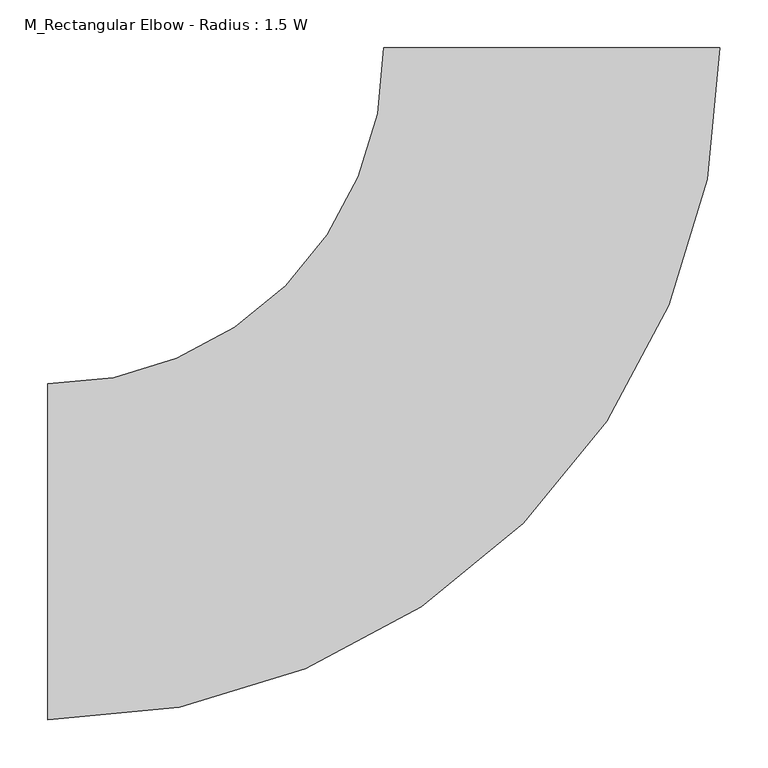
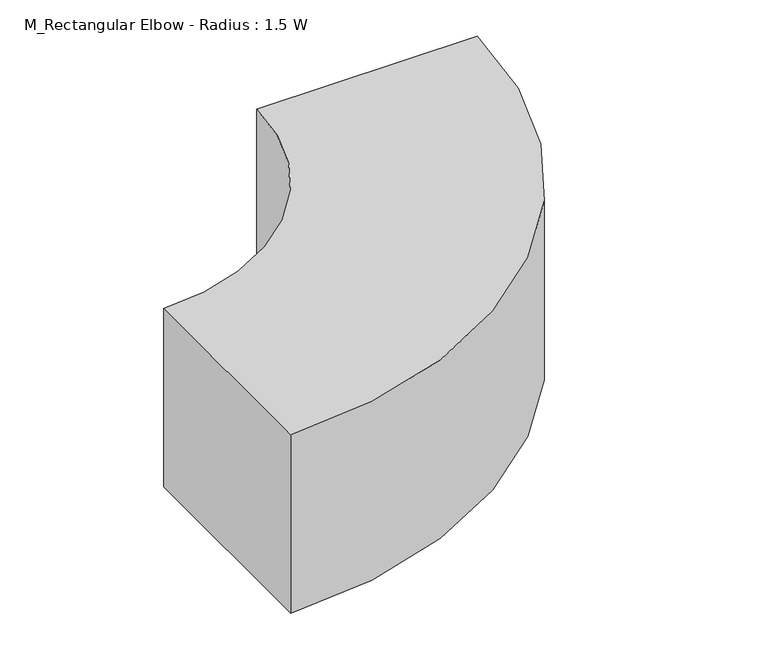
"""IFC4 building model written with IfcOpenShell, lengths in millimetres: duct fitting geometry, M_Rectangular Elbow - Radius : 1.5 W."""

from ifc_helpers import new_model, si_unit, point, frame, frame_2d, origin, place, context, project, spatial, polyline, circle_curve, trimmed, segment, composite_curve, outline, extrude, source, transform, mapped, element, save


def m_rectangular_elbow_radius_1_5_w_da3ef0f7(model_context):
    return source(origin(), model_context, "Body", "SweptSolid", [
        extrude(outline(composite_curve([segment(trimmed(circle_curve(frame_2d((-525.0, 525.0)), 700.0), [point((175.0, 525.0))], [point((-525.0, -175.0))], False, "CARTESIAN"), True, "CONTINUOUS"), segment(polyline([(-525.0, -175.0), (-525.0, 175.0)]), True, "CONTINUOUS"), segment(trimmed(circle_curve(frame_2d((-525.0, 525.0)), 350.0), [point((-525.0, 175.0))], [point((-175.0, 525.0))], True, "CARTESIAN"), True, "CONTINUOUS"), segment(polyline([(-175.0, 525.0), (175.0, 525.0)]), True, "CONTINUOUS")], self_intersect=False)), frame((0.0, 0.0, -150.0), z_axis=(0.0, 0.0, 1.0), x_axis=(1.0, 0.0, 0.0)), (0.0, 0.0, 1.0), 300.0),
        extrude(outline(composite_curve([segment(trimmed(circle_curve(frame_2d((-525.0, 525.0)), 700.0), [point((175.0, 525.0))], [point((-525.0, -175.0))], False, "CARTESIAN"), True, "CONTINUOUS"), segment(polyline([(-525.0, -175.0), (-525.0, 175.0)]), True, "CONTINUOUS"), segment(trimmed(circle_curve(frame_2d((-525.0, 525.0)), 350.0), [point((-525.0, 175.0))], [point((-175.0, 525.0))], True, "CARTESIAN"), True, "CONTINUOUS"), segment(polyline([(-175.0, 525.0), (175.0, 525.0)]), True, "CONTINUOUS")], self_intersect=False)), frame((0.0, 0.0, -150.0), z_axis=(0.0, 0.0, 1.0), x_axis=(1.0, 0.0, 0.0)), (0.0, 0.0, 1.0), 300.0),
        extrude(outline(composite_curve([segment(trimmed(circle_curve(frame_2d((-525.0, 525.0)), 700.0), [point((175.0, 525.0))], [point((-525.0, -175.0))], False, "CARTESIAN"), True, "CONTINUOUS"), segment(polyline([(-525.0, -175.0), (-525.0, 175.0)]), True, "CONTINUOUS"), segment(trimmed(circle_curve(frame_2d((-525.0, 525.0)), 350.0), [point((-525.0, 175.0))], [point((-175.0, 525.0))], True, "CARTESIAN"), True, "CONTINUOUS"), segment(polyline([(-175.0, 525.0), (175.0, 525.0)]), True, "CONTINUOUS")], self_intersect=False)), frame((0.0, 0.0, -150.0), z_axis=(0.0, 0.0, 1.0), x_axis=(1.0, 0.0, 0.0)), (0.0, 0.0, 1.0), 300.0),
    ])


if __name__ == "__main__":
    model = new_model("IFC4")
    model_context = context("Model", 3, world=origin())
    ifc_project = project(units=[si_unit("LENGTHUNIT", "METRE", prefix="MILLI")], contexts=[model_context])
    site = spatial("IfcSite", under=ifc_project)
    building = spatial("IfcBuilding", under=site)
    placement = place(None, origin())
    m_rectangular_elbow_radius_1_5_w_shape = m_rectangular_elbow_radius_1_5_w_da3ef0f7(model_context)
    element("IfcDuctFitting", 1, ObjectType="M_Rectangular Elbow - Radius : 1.5 W", at=placement, inside=building, context=model_context, shape_type="MappedRepresentation", body=[
        mapped(m_rectangular_elbow_radius_1_5_w_shape, transform((0.0, 0.0, 0.0), x_axis=(1.0, 0.0, 0.0), y_axis=(0.0, 1.0, 0.0), z_axis=(0.0, 0.0, 1.0))),
    ])
    save(model, "model.ifc")
